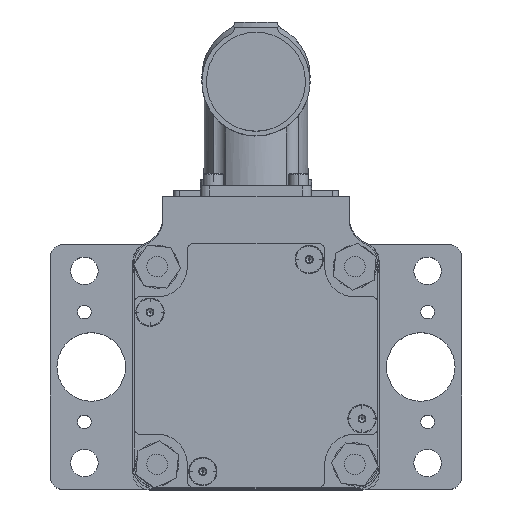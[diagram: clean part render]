
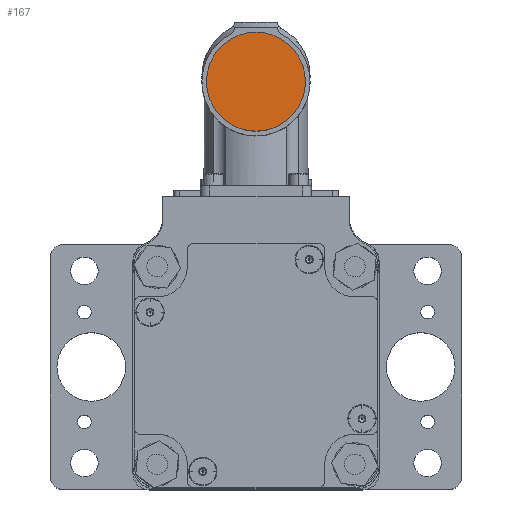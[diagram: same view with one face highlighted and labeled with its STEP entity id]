
A CAD part, top view. The second image highlights one B-rep face of the part: STEP entity #167.
In plain terms, the highlighted planar face has unit normal (0, 0, 1) as drawn and (0, 1, 0) by its records, which use the part's own axes.
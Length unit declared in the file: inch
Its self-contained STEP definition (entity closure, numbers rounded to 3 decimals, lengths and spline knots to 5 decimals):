
#30 = ORIENTED_EDGE ( 'NONE', *, *, #32481, .T. ) ;
#31 = ORIENTED_EDGE ( 'NONE', *, *, #168, .T. ) ;
#167 = ADVANCED_FACE ( 'NONE', ( #4854 ), #4849, .F. ) ;
#168 = EDGE_CURVE ( 'NONE', #32479, #32482, #4832, .T. ) ;
#169 = EDGE_LOOP ( 'NONE', ( #30, #31 ) ) ;
#4829 = DIRECTION ( 'NONE',  ( -1., 0., 0. ) ) ;
#4830 = DIRECTION ( 'NONE',  ( 0., 1., 0. ) ) ;
#4831 = AXIS2_PLACEMENT_3D ( 'NONE', #4847, #4830, #4829 ) ;
#4832 = CIRCLE ( 'NONE', #4831, 0.4505 ) ;
#4844 = DIRECTION ( 'NONE',  ( 1., 0., 0. ) ) ;
#4845 = DIRECTION ( 'NONE',  ( 0., -1., 0. ) ) ;
#4846 = AXIS2_PLACEMENT_3D ( 'NONE', #4848, #4845, #4844 ) ;
#4847 = CARTESIAN_POINT ( 'NONE',  ( 0., 1.90134, 1.04331 ) ) ;
#4848 = CARTESIAN_POINT ( 'NONE',  ( -0.26247, 1.90134, 1.53543 ) ) ;
#4849 = PLANE ( 'NONE',  #4846 ) ;
#4854 = FACE_OUTER_BOUND ( 'NONE', #169, .T. ) ;
#12533 = CARTESIAN_POINT ( 'NONE',  ( -0.4505, 1.90134, 1.04331 ) ) ;
#12534 = DIRECTION ( 'NONE',  ( -1., 0., 0. ) ) ;
#12535 = DIRECTION ( 'NONE',  ( 0., 1., 0. ) ) ;
#12536 = CARTESIAN_POINT ( 'NONE',  ( 0., 1.90134, 1.04331 ) ) ;
#12537 = AXIS2_PLACEMENT_3D ( 'NONE', #12536, #12535, #12534 ) ;
#12538 = CIRCLE ( 'NONE', #12537, 0.4505 ) ;
#12539 = CARTESIAN_POINT ( 'NONE',  ( 0.4505, 1.90134, 1.04331 ) ) ;
#32479 = VERTEX_POINT ( 'NONE', #12539 ) ;
#32481 = EDGE_CURVE ( 'NONE', #32482, #32479, #12538, .T. ) ;
#32482 = VERTEX_POINT ( 'NONE', #12533 ) ;
